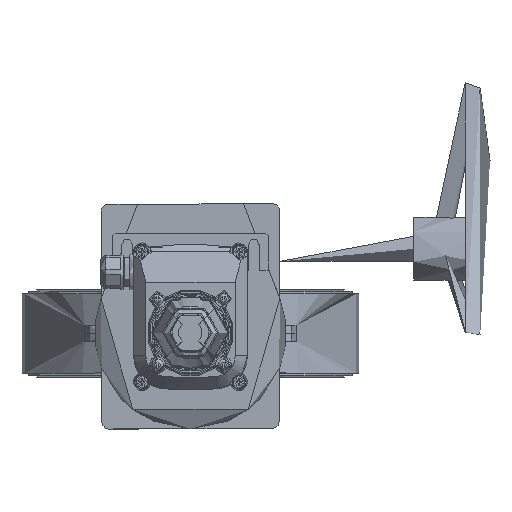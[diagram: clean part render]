
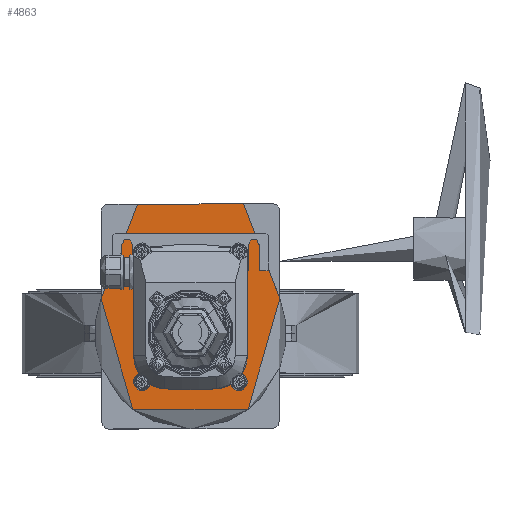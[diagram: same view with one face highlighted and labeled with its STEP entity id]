
A CAD part, top view. The second image highlights one B-rep face of the part: STEP entity #4863.
In plain terms, the highlighted planar face has unit normal (0, 0, 1).
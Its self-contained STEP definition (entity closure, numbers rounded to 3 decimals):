
#4863=ADVANCED_FACE('',(#17461),#17463,.T.);
#17461=FACE_BOUND('',#17462,.T.);
#17462=EDGE_LOOP('',(#27438,#27439,#27440,#27441));
#17463=PLANE('',#17464);
#17464=AXIS2_PLACEMENT_3D('',#17465,#17466,#17467);
#17465=CARTESIAN_POINT('',(647.718,1048.223,1318.422));
#17466=DIRECTION('',(0.,0.,1.));
#17467=DIRECTION('',(1.,0.,0.));
#27438=ORIENTED_EDGE('',*,*,#34470,.T.);
#27439=ORIENTED_EDGE('',*,*,#34468,.T.);
#27440=ORIENTED_EDGE('',*,*,#34464,.T.);
#27441=ORIENTED_EDGE('',*,*,#34467,.T.);
#34464=EDGE_CURVE('',#39681,#39679,#39682,.T.);
#34467=EDGE_CURVE('',#39679,#39684,#39686,.T.);
#34468=EDGE_CURVE('',#39687,#39681,#39688,.T.);
#34470=EDGE_CURVE('',#39684,#39687,#39690,.T.);
#39679=VERTEX_POINT('',#57204);
#39681=VERTEX_POINT('',#57208);
#39682=LINE('',#57209,#57210);
#39684=VERTEX_POINT('',#57215);
#39686=LINE('',#57219,#57220);
#39687=VERTEX_POINT('',#57222);
#39688=CIRCLE('',#57223,72.501);
#39690=LINE('',#57230,#57231);
#57204=CARTESIAN_POINT('',(687.726,1123.542,1318.422));
#57208=CARTESIAN_POINT('',(715.338,1051.988,1318.422));
#57209=CARTESIAN_POINT('',(715.338,1051.988,1318.422));
#57210=VECTOR('',#57211,1.);
#57211=DIRECTION('',(-0.36,0.933,0.));
#57215=CARTESIAN_POINT('',(607.553,1123.232,1318.422));
#57219=CARTESIAN_POINT('',(687.726,1123.542,1318.422));
#57220=VECTOR('',#57221,1.);
#57221=DIRECTION('',(-1.,-0.004,0.));
#57222=CARTESIAN_POINT('',(580.061,1051.988,1318.422));
#57223=AXIS2_PLACEMENT_3D('',#57224,#57225,#57226);
#57224=CARTESIAN_POINT('',(647.699,1025.884,1318.422));
#57225=DIRECTION('',(0.,0.,1.));
#57226=DIRECTION('',(-0.933,0.36,0.));
#57230=CARTESIAN_POINT('',(607.553,1123.232,1318.422));
#57231=VECTOR('',#57232,1.);
#57232=DIRECTION('',(-0.36,-0.933,0.));
